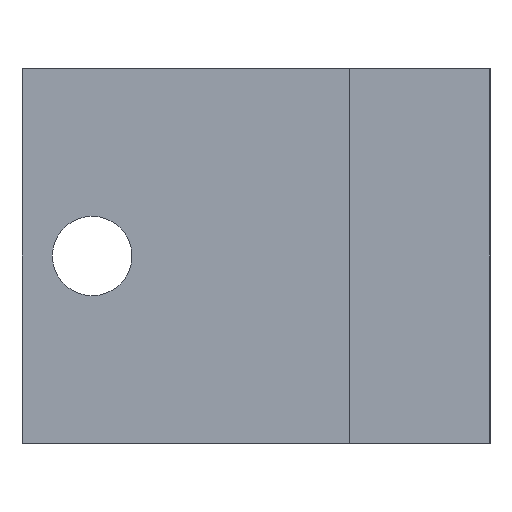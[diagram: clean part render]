
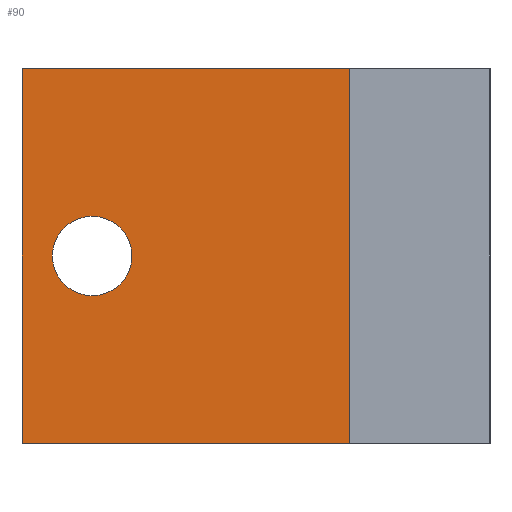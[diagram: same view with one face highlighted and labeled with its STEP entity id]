
A CAD part, left-side view. The second image highlights one B-rep face of the part: STEP entity #90.
In plain terms, the highlighted planar face has unit normal (-1, 0, 0).
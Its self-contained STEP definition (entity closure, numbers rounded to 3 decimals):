
#57=FACE_BOUND('',#122,.T.);
#58=FACE_BOUND('',#123,.T.);
#78=CIRCLE('',#293,3.4);
#90=ADVANCED_FACE('',(#57,#58),#105,.F.);
#105=PLANE('',#294);
#122=EDGE_LOOP('',(#175));
#123=EDGE_LOOP('',(#176,#177,#178,#179));
#175=ORIENTED_EDGE('',*,*,#239,.T.);
#176=ORIENTED_EDGE('',*,*,#227,.T.);
#177=ORIENTED_EDGE('',*,*,#222,.F.);
#178=ORIENTED_EDGE('',*,*,#220,.F.);
#179=ORIENTED_EDGE('',*,*,#238,.T.);
#198=VERTEX_POINT('',#385);
#199=VERTEX_POINT('',#387);
#200=VERTEX_POINT('',#391);
#204=VERTEX_POINT('',#401);
#211=VERTEX_POINT('',#425);
#220=EDGE_CURVE('',#198,#199,#248,.T.);
#222=EDGE_CURVE('',#199,#200,#250,.T.);
#227=EDGE_CURVE('',#204,#200,#255,.T.);
#238=EDGE_CURVE('',#198,#204,#261,.T.);
#239=EDGE_CURVE('',#211,#211,#78,.T.);
#248=LINE('',#386,#266);
#250=LINE('',#390,#268);
#255=LINE('',#400,#273);
#261=LINE('',#422,#279);
#266=VECTOR('',#312,1.);
#268=VECTOR('',#316,1.);
#273=VECTOR('',#323,1.);
#279=VECTOR('',#347,1.);
#293=AXIS2_PLACEMENT_3D('',#424,#350,#351);
#294=AXIS2_PLACEMENT_3D('',#426,#352,#353);
#312=DIRECTION('',(0.,1.,0.));
#316=DIRECTION('',(0.,0.,1.));
#323=DIRECTION('',(0.,1.,0.));
#347=DIRECTION('',(0.,0.,1.));
#350=DIRECTION('',(1.,0.,0.));
#351=DIRECTION('',(0.,0.,-1.));
#352=DIRECTION('',(1.,0.,0.));
#353=DIRECTION('',(0.,0.,-1.));
#385=CARTESIAN_POINT('',(73.,12.,-16.));
#386=CARTESIAN_POINT('',(73.,0.,-16.));
#387=CARTESIAN_POINT('',(73.,40.,-16.));
#390=CARTESIAN_POINT('',(73.,40.,-16.));
#391=CARTESIAN_POINT('',(73.,40.,16.));
#400=CARTESIAN_POINT('',(73.,0.,16.));
#401=CARTESIAN_POINT('',(73.,12.,16.));
#422=CARTESIAN_POINT('',(73.,12.,-16.));
#424=CARTESIAN_POINT('',(73.,34.,0.));
#425=CARTESIAN_POINT('',(73.,34.,-3.4));
#426=CARTESIAN_POINT('',(73.,0.,-16.));
